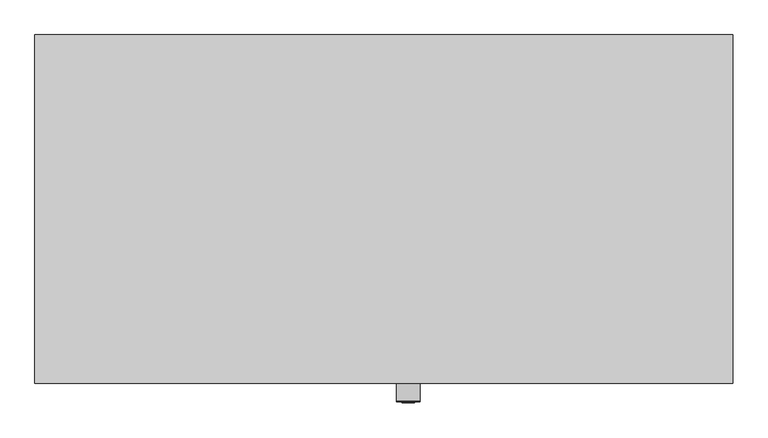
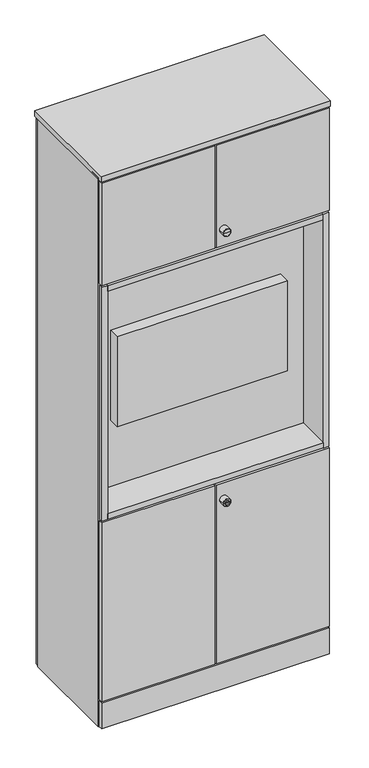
"""IFC4 building model written with IfcOpenShell, lengths in millimetres: furniture geometry, Furniture_Storage_Spacestor_SignatureStoragewall : Mediastor Single."""

from ifc_helpers import new_model, si_unit, point, frame, origin, origin_with_axes, place, context, project, spatial, polyline, circle_curve, ellipse_curve, trimmed, outline, extrude, source, transform, mapped, element, save
from ifc_brep_helpers import plane_surface, cylinder_surface, revolved_surface, advanced_brep


def furniture_eb67927f(model_context):
    return source(origin(), model_context, "Body", "SolidModel", [
        extrude(outline(polyline([(996.5, 459.0), (3.5, 459.0), (3.5, 477.0), (996.5, 477.0), (996.5, 459.0)])), origin_with_axes(), (0.0, 0.0, 1.0), 2518.0),
        extrude(outline(polyline([(996.5, -18.0), (3.5, -18.0), (3.5, 0.0), (996.5, 0.0), (996.5, -18.0)])), origin_with_axes(), (0.0, 0.0, 1.0), 118.0),
        extrude(outline(polyline([(1000.0, -20.5), (0.0, -20.5), (0.0, 479.5), (1000.0, 479.5), (1000.0, -20.5)])), frame((0.0, 0.0, 2525.0), z_axis=(0.0, 0.0, 1.0), x_axis=(1.0, 0.0, 0.0)), (0.0, 0.0, 1.0), 25.5),
        extrude(outline(polyline([(1000.0, 0.0), (989.0, 0.0), (989.0, 459.0), (1000.0, 459.0), (1000.0, 0.0)])), origin_with_axes(), (0.0, 0.0, 1.0), 2532.5),
        extrude(outline(polyline([(11.0, 0.0), (0.0, 0.0), (0.0, 459.0), (11.0, 459.0), (11.0, 0.0)])), origin_with_axes(), (0.0, 0.0, 1.0), 2532.5),
        extrude(outline(polyline([(989.0, 0.0), (11.0, 0.0), (11.0, 459.0), (989.0, 459.0), (989.0, 0.0)])), frame((0.0, 0.0, 110.5), z_axis=(0.0, 0.0, 1.0), x_axis=(1.0, 0.0, 0.0)), (0.0, 0.0, 1.0), 22.0),
        extrude(outline(polyline([(989.0, 0.0), (11.0, 0.0), (11.0, 459.0), (989.0, 459.0), (989.0, 0.0)])), frame((0.0, 0.0, 2510.0), z_axis=(0.0, 0.0, 1.0), x_axis=(1.0, 0.0, 0.0)), (0.0, 0.0, 1.0), 22.0),
        extrude(outline(polyline([(989.0, 0.0), (11.0, 0.0), (11.0, 459.0), (989.0, 459.0), (989.0, 0.0)])), frame((0.0, 0.0, 2030.5), z_axis=(0.0, 0.0, 1.0), x_axis=(1.0, 0.0, 0.0)), (0.0, 0.0, 1.0), 22.0),
        extrude(outline(polyline([(989.0, 0.0), (11.0, 0.0), (11.0, 459.0), (989.0, 459.0), (989.0, 0.0)])), frame((0.0, 0.0, 942.5), z_axis=(0.0, 0.0, 1.0), x_axis=(1.0, 0.0, 0.0)), (0.0, 0.0, 1.0), 22.0),
        advanced_brep(
        [(552.0, -45.3116344, 2120.0), (518.0, -45.3116344, 2120.0), (518.0, -18.0, 2120.0), (552.0, -18.0, 2120.0), (535.0, -18.0, 2120.0), (535.0, -46.3150077, 2120.0), (519.0033734, -46.3150077, 2120.0), (550.9966266, -46.3150077, 2120.0)],
        [
            (0, 1, circle_curve(frame((535.0, -45.3116344, 2120.0), z_axis=(0.0, 1.0, 0.0), x_axis=(-1.0, 0.0, 0.0)), 17.0)),
            (1, 2),
            (2, 3, circle_curve(frame((535.0, -18.0, 2120.0), z_axis=(0.0, -1.0, 0.0), x_axis=(-1.0, 0.0, 0.0)), 17.0)),
            (3, 0),
            (1, 0, circle_curve(frame((535.0, -45.3116344, 2120.0), z_axis=(0.0, 1.0, 0.0), x_axis=(-1.0, 0.0, 0.0)), 17.0)),
            (3, 2, circle_curve(frame((535.0, -18.0, 2120.0), z_axis=(0.0, -1.0, 0.0), x_axis=(-1.0, 0.0, 0.0)), 17.0)),
            (2, 4),
            (4, 3),
            (5, 6),
            (6, 7, circle_curve(frame((535.0, -46.3150077, 2120.0), z_axis=(0.0, -1.0, 0.0), x_axis=(-1.0, 0.0, 0.0)), 15.9966266)),
            (7, 5),
            (7, 6, circle_curve(frame((535.0, -46.3150077, 2120.0), z_axis=(0.0, -1.0, 0.0), x_axis=(-1.0, 0.0, 0.0)), 15.9966266)),
            (6, 1, circle_curve(frame((519.0033734, -45.3116344, 2120.0), z_axis=(0.0, 0.0, -1.0), x_axis=(-1.0, 0.0, 0.0)), 1.0033734)),
            (0, 7, circle_curve(frame((550.9966266, -45.3116344, 2120.0), z_axis=(0.0, 0.0, -1.0), x_axis=(1.0, 0.0, 0.0)), 1.0033734)),
        ],
        [
            cylinder_surface(frame((535.0, -2627.0581012, 2120.0), z_axis=(0.0, -1.0, 0.0), x_axis=(-1.0, 0.0, 0.0)), 17.0),
            plane_surface(frame((535.0, -18.0, 2120.0), z_axis=(0.0, 1.0, 0.0), x_axis=(-1.0, 0.0, 0.0))),
            plane_surface(frame((535.0, -46.3150077, 2120.0), z_axis=(0.0, -1.0, 0.0), x_axis=(-1.0, 0.0, 0.0))),
            revolved_surface(trimmed(ellipse_curve(frame((519.0033734, -45.3116344, 2120.0), z_axis=(0.0, 0.0, 1.0), x_axis=(-1.0, 0.0, 0.0)), 1.0033734, 1.0033734), [point((518.0, -45.3116344, 2120.0))], [point((519.0033734, -46.3150077, 2120.0))], True, "CARTESIAN"), (535.0, -2627.0581012, 2120.0), (0.0, -1.0, 0.0)),
        ],
        [
            (0, [[1, 2, 3, 4]]),
            (0, [[5, -4, 6, -2]]),
            (1, [[-3, 7, 8]]),
            (1, [[-6, -8, -7]]),
            (2, [[9, 10, 11]]),
            (2, [[-11, 12, -9]]),
            (3, [[-10, 13, -1, 14]]),
            (3, [[-12, -14, -5, -13]]),
        ],
    ),
        extrude(outline(polyline([(870.5, 82.0), (129.5, 82.0), (129.5, 132.0), (870.5, 132.0), (870.5, 82.0)])), frame((0.0, 0.0, 1289.02), z_axis=(0.0, 0.0, 1.0), x_axis=(1.0, 0.0, 0.0)), (0.0, 0.0, 1.0), 414.96),
        extrude(outline(polyline([(970.5, -18.0), (29.5, -18.0), (29.5, 132.0), (970.5, 132.0), (970.5, -18.0)])), frame((0.0, 0.0, 957.5), z_axis=(0.0, 0.0, 1.0), x_axis=(1.0, 0.0, 0.0)), (0.0, 0.0, 1.0), 25.0),
        extrude(outline(polyline([(29.5, -18.0), (4.5, -18.0), (4.5, 132.0), (29.5, 132.0), (29.5, -18.0)])), frame((0.0, 0.0, 957.0), z_axis=(0.0, 0.0, 1.0), x_axis=(1.0, 0.0, 0.0)), (0.0, 0.0, 1.0), 1079.0),
        extrude(outline(polyline([(995.5, -18.0), (970.5, -18.0), (970.5, 132.0), (995.5, 132.0), (995.5, -18.0)])), frame((0.0, 0.0, 957.0), z_axis=(0.0, 0.0, 1.0), x_axis=(1.0, 0.0, 0.0)), (0.0, 0.0, 1.0), 1079.0),
        extrude(outline(polyline([(995.5, 132.0), (4.5, 132.0), (4.5, 150.0), (995.5, 150.0), (995.5, 132.0)])), frame((0.0, 0.0, 957.0), z_axis=(0.0, 0.0, 1.0), x_axis=(1.0, 0.0, 0.0)), (0.0, 0.0, 1.0), 1079.0),
        extrude(outline(polyline([(970.5, -18.0), (29.5, -18.0), (29.5, 132.0), (970.5, 132.0), (970.5, -18.0)])), frame((0.0, 0.0, 2010.5), z_axis=(0.0, 0.0, 1.0), x_axis=(1.0, 0.0, 0.0)), (0.0, 0.0, 1.0), 25.0),
        extrude(outline(polyline([(3.5, -18.0), (3.5, 0.0), (496.5, 0.0), (496.5, -18.0), (3.5, -18.0)])), frame((0.0, 0.0, 125.0), z_axis=(0.0, 0.0, 1.0), x_axis=(1.0, 0.0, 0.0)), (0.0, 0.0, 1.0), 825.0),
        extrude(outline(polyline([(996.5, -18.0), (503.5, -18.0), (503.5, 0.0), (996.5, 0.0), (996.5, -18.0)])), frame((0.0, 0.0, 125.0), z_axis=(0.0, 0.0, 1.0), x_axis=(1.0, 0.0, 0.0)), (0.0, 0.0, 1.0), 825.0),
        advanced_brep(
        [(552.0, -45.3116344, 875.0), (518.0, -45.3116344, 875.0), (518.0, -18.0, 875.0), (552.0, -18.0, 875.0), (535.0, -18.0, 875.0), (543.9747319, -46.3150077, 875.0), (526.0252681, -46.3150077, 875.0), (519.0033734, -46.3150077, 875.0), (550.9966266, -46.3150077, 875.0), (543.9747319, -47.4703043, 875.0), (526.0252681, -47.4703043, 875.0), (539.8245152, -47.4703043, 875.0), (539.8245152, -47.4703043, 873.6366562), (530.1754848, -47.4703043, 873.6366562), (530.1754848, -47.4703043, 875.0), (530.1754848, -47.4703043, 876.3633438), (539.8245152, -47.4703043, 876.3633438), (530.1754848, -27.8604291, 873.6366562), (539.8245152, -27.8604291, 873.6366562), (539.8245152, -27.8604291, 876.3633438), (530.1754848, -27.8604291, 876.3633438)],
        [
            (0, 1, circle_curve(frame((535.0, -45.3116344, 875.0), z_axis=(0.0, 1.0, 0.0), x_axis=(-1.0, 0.0, 0.0)), 17.0)),
            (1, 2),
            (2, 3, circle_curve(frame((535.0, -18.0, 875.0), z_axis=(0.0, -1.0, 0.0), x_axis=(-1.0, 0.0, 0.0)), 17.0)),
            (3, 0),
            (1, 0, circle_curve(frame((535.0, -45.3116344, 875.0), z_axis=(0.0, 1.0, 0.0), x_axis=(-1.0, 0.0, 0.0)), 17.0)),
            (3, 2, circle_curve(frame((535.0, -18.0, 875.0), z_axis=(0.0, -1.0, 0.0), x_axis=(-1.0, 0.0, 0.0)), 17.0)),
            (2, 4),
            (4, 3),
            (5, 6, circle_curve(frame((535.0, -46.3150077, 875.0), z_axis=(0.0, 1.0, 0.0), x_axis=(-1.0, 0.0, 0.0)), 8.9747319)),
            (6, 7),
            (7, 8, circle_curve(frame((535.0, -46.3150077, 875.0), z_axis=(0.0, -1.0, 0.0), x_axis=(-1.0, 0.0, 0.0)), 15.9966266)),
            (8, 5),
            (6, 5, circle_curve(frame((535.0, -46.3150077, 875.0), z_axis=(0.0, 1.0, 0.0), x_axis=(-1.0, 0.0, 0.0)), 8.9747319)),
            (8, 7, circle_curve(frame((535.0, -46.3150077, 875.0), z_axis=(0.0, -1.0, 0.0), x_axis=(-1.0, 0.0, 0.0)), 15.9966266)),
            (0, 8, circle_curve(frame((550.9966266, -45.3116344, 875.0), z_axis=(0.0, 0.0, -1.0), x_axis=(1.0, 0.0, 0.0)), 1.0033734)),
            (7, 1, circle_curve(frame((519.0033734, -45.3116344, 875.0), z_axis=(0.0, 0.0, -1.0), x_axis=(-1.0, 0.0, 0.0)), 1.0033734)),
            (5, 9),
            (9, 10, circle_curve(frame((535.0, -47.4703043, 875.0), z_axis=(0.0, 1.0, 0.0), x_axis=(-1.0, 0.0, 0.0)), 8.9747319)),
            (10, 6),
            (10, 9, circle_curve(frame((535.0, -47.4703043, 875.0), z_axis=(0.0, 1.0, 0.0), x_axis=(-1.0, 0.0, 0.0)), 8.9747319)),
            (9, 11),
            (11, 12),
            (12, 13),
            (13, 14),
            (14, 10),
            (14, 15),
            (15, 16),
            (16, 11),
            (17, 18),
            (18, 19),
            (19, 20),
            (20, 17),
            (17, 13),
            (12, 18),
            (16, 19),
            (15, 20),
        ],
        [
            cylinder_surface(frame((535.0, -2627.0581012, 875.0), z_axis=(0.0, -1.0, 0.0), x_axis=(-1.0, 0.0, 0.0)), 17.0),
            plane_surface(frame((535.0, -18.0, 875.0), z_axis=(0.0, 1.0, 0.0), x_axis=(-1.0, 0.0, 0.0))),
            plane_surface(frame((535.0, -46.3150077, 875.0), z_axis=(0.0, -1.0, 0.0), x_axis=(-1.0, 0.0, 0.0))),
            revolved_surface(trimmed(ellipse_curve(frame((519.0033734, -45.3116344, 875.0), z_axis=(0.0, 0.0, 1.0), x_axis=(-1.0, 0.0, 0.0)), 1.0033734, 1.0033734), [point((518.0, -45.3116344, 875.0))], [point((519.0033734, -46.3150077, 875.0))], True, "CARTESIAN"), (535.0, -2627.0581012, 875.0), (0.0, -1.0, 0.0)),
            cylinder_surface(frame((535.0, -2627.0581012, 875.0), z_axis=(0.0, -1.0, 0.0), x_axis=(-1.0, 0.0, 0.0)), 8.9747319),
            plane_surface(frame((535.0, -47.4703043, 875.0), z_axis=(0.0, -1.0, 0.0), x_axis=(-1.0, 0.0, 0.0))),
            plane_surface(frame((539.4565249, -27.8604291, 873.6366562), z_axis=(0.0, -1.0, 0.0), x_axis=(-1.0, 0.0, 0.0))),
            plane_surface(frame((530.1754848, -49.2046383, 873.6366562), z_axis=(0.0, 0.0, 1.0), x_axis=(0.0, 1.0, 0.0))),
            plane_surface(frame((539.8245152, -49.2046383, 873.6366562), z_axis=(-1.0, 0.0, 0.0), x_axis=(0.0, 1.0, 0.0))),
            plane_surface(frame((539.8245152, -49.2046383, 876.3633438), z_axis=(0.0, 0.0, -1.0), x_axis=(0.0, 1.0, 0.0))),
            plane_surface(frame((530.1754848, -49.2046383, 876.3633438), z_axis=(1.0, 0.0, 0.0), x_axis=(0.0, 1.0, 0.0))),
        ],
        [
            (0, [[1, 2, 3, 4]]),
            (0, [[-2, 5, -4, 6]]),
            (1, [[-3, 7, 8]]),
            (1, [[-6, -8, -7]]),
            (2, [[9, 10, 11, 12]]),
            (2, [[-10, 13, -12, 14]]),
            (3, [[-1, 15, -11, 16]]),
            (3, [[-5, -16, -14, -15]]),
            (4, [[-9, 17, 18, 19]]),
            (4, [[-13, -19, 20, -17]]),
            (5, [[-18, 21, 22, 23, 24, 25]]),
            (5, [[-20, -25, 26, 27, 28, -21]]),
            (6, [[29, 30, 31, 32]]),
            (7, [[-29, 33, -23, 34]]),
            (8, [[-30, -34, -22, -28, 35]]),
            (9, [[-31, -35, -27, 36]]),
            (10, [[-32, -36, -26, -24, -33]]),
        ],
    ),
        extrude(outline(polyline([(3.5, -18.0), (3.5, 0.0), (496.5, 0.0), (496.5, -18.0), (3.5, -18.0)])), frame((0.0, 0.0, 2045.0), z_axis=(0.0, 0.0, 1.0), x_axis=(1.0, 0.0, 0.0)), (0.0, 0.0, 1.0), 473.0),
        extrude(outline(polyline([(996.5, -18.0), (503.5, -18.0), (503.5, 0.0), (996.5, 0.0), (996.5, -18.0)])), frame((0.0, 0.0, 2045.0), z_axis=(0.0, 0.0, 1.0), x_axis=(1.0, 0.0, 0.0)), (0.0, 0.0, 1.0), 473.0),
    ])


if __name__ == "__main__":
    model = new_model("IFC4")
    model_context = context("Model", 3, world=origin())
    ifc_project = project(units=[si_unit("LENGTHUNIT", "METRE", prefix="MILLI")], contexts=[model_context])
    site = spatial("IfcSite", under=ifc_project)
    building = spatial("IfcBuilding", under=site)
    placement = place(None, origin())
    furniture_shape = furniture_eb67927f(model_context)
    element("IfcFurniture", 1, ObjectType="Furniture_Storage_Spacestor_SignatureStoragewall : Mediastor Single", at=placement, inside=building, context=model_context, shape_type="MappedRepresentation", body=[
        mapped(furniture_shape, transform((0.0, 0.0, 0.0), x_axis=(1.0, 0.0, 0.0), y_axis=(0.0, 1.0, 0.0), z_axis=(0.0, 0.0, 1.0))),
    ])
    save(model, "model.ifc")
